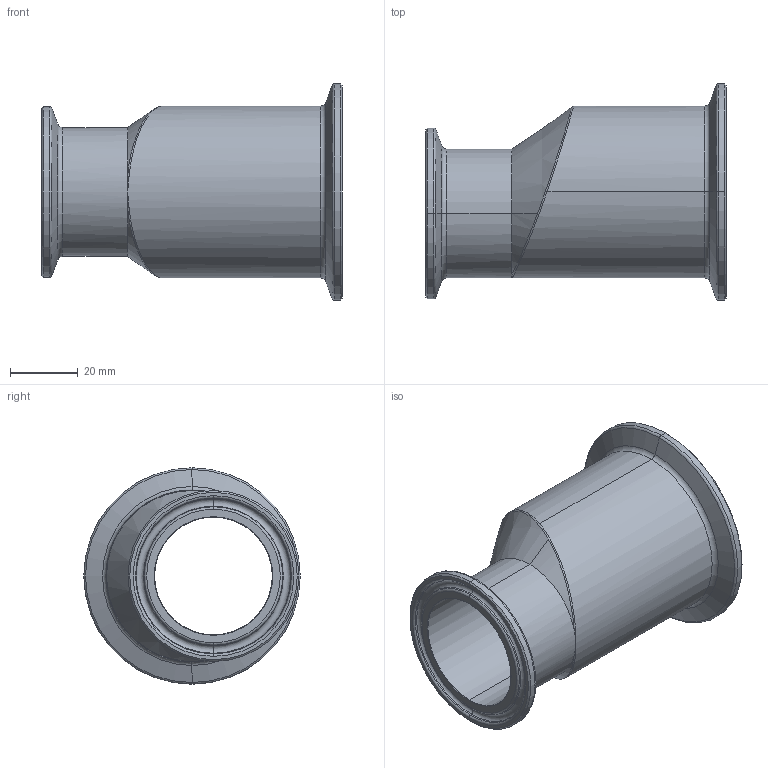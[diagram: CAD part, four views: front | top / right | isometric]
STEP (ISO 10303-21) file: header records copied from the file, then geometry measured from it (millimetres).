
FILE_DESCRIPTION (( 'STEP AP214' ), '1' );
FILE_NAME ('TEG32SCC6L2.0x1.5-...STEP', '2016-06-01T13:00:17', ( 'eran' ), ( '' ), 'SwSTEP 2.0', 'SolidWorks 2016', '' );
FILE_SCHEMA (( 'AUTOMOTIVE_DESIGN' ));
Length unit declared in the file: millimetre
Products named in the file (1): TEG32SCC6L2.0x1.5-..
Bounding box: 88.9 x 64 x 64 mm (x, y, z)
Volume: 59614 mm3; surface area: 28298.2 mm2
Topology: 1 solids, 1 shells, 70 faces, 150 edges, 80 vertices
Faces by surface type: torus 25, cone 24, cylinder 12, bspline 5, plane 4
Entity records: 2634 total; most frequent: CARTESIAN_POINT 1098, DIRECTION 356, ORIENTED_EDGE 292, AXIS2_PLACEMENT_3D 161, EDGE_CURVE 146, CIRCLE 95, VERTEX_POINT 80, EDGE_LOOP 74
